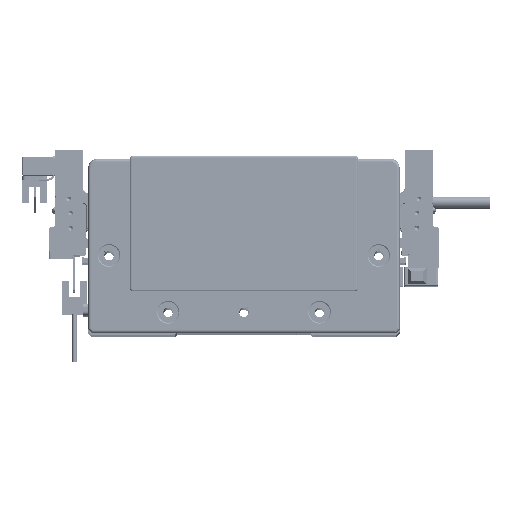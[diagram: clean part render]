
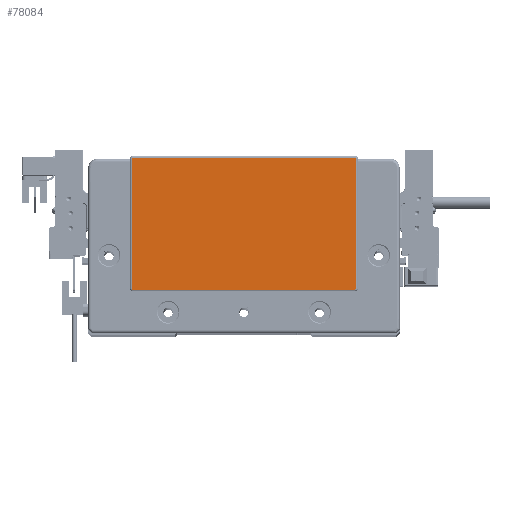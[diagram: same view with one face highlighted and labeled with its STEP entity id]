
A CAD part, top view. The second image highlights one B-rep face of the part: STEP entity #78084.
In plain terms, the highlighted planar face has unit normal (0, 0, 1) as drawn and (0, 0, -1) by its records, which use the part's own axes.
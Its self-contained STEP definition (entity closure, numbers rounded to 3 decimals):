
#1613 = CARTESIAN_POINT ( 'NONE',  ( 58.75, 45.3, -2. ) ) ;
#2298 = LINE ( 'NONE', #22966, #5763 ) ;
#3175 = DIRECTION ( 'NONE',  ( -1., 0., 0. ) ) ;
#3394 = CIRCLE ( 'NONE', #80886, 0.5 ) ;
#5763 = VECTOR ( 'NONE', #74366, 1000. ) ;
#7729 = CARTESIAN_POINT ( 'NONE',  ( -58.75, -23.8, -2. ) ) ;
#12370 = EDGE_CURVE ( 'NONE', #72384, #70625, #81031, .T. ) ;
#14386 = DIRECTION ( 'NONE',  ( -1., 0., 0. ) ) ;
#14450 = VERTEX_POINT ( 'NONE', #79374 ) ;
#15658 = EDGE_CURVE ( 'NONE', #14450, #72384, #64593, .T. ) ;
#16767 = DIRECTION ( 'NONE',  ( 0., 0., -1. ) ) ;
#20718 = EDGE_CURVE ( 'NONE', #70625, #79752, #28862, .T. ) ;
#22966 = CARTESIAN_POINT ( 'NONE',  ( -59.25, 45.3, -2. ) ) ;
#23086 = EDGE_LOOP ( 'NONE', ( #33965, #75653, #28475, #74680, #68745, #51826, #42947, #87968 ) ) ;
#23227 = DIRECTION ( 'NONE',  ( 0., -1., 0. ) ) ;
#23274 = CARTESIAN_POINT ( 'NONE',  ( 58.75, 45.8, -2. ) ) ;
#24673 = CARTESIAN_POINT ( 'NONE',  ( -59.25, 45.3, -2. ) ) ;
#25011 = AXIS2_PLACEMENT_3D ( 'NONE', #71629, #16767, #58122 ) ;
#25664 = VECTOR ( 'NONE', #23227, 1000. ) ;
#27503 = AXIS2_PLACEMENT_3D ( 'NONE', #49438, #75990, #14386 ) ;
#28207 = CARTESIAN_POINT ( 'NONE',  ( -58.75, 45.8, -2. ) ) ;
#28355 = CIRCLE ( 'NONE', #61391, 0.5 ) ;
#28475 = ORIENTED_EDGE ( 'NONE', *, *, #20718, .T. ) ;
#28862 = LINE ( 'NONE', #7729, #62502 ) ;
#30021 = VECTOR ( 'NONE', #48456, 1000. ) ;
#31584 = DIRECTION ( 'NONE',  ( 0., 0., -1. ) ) ;
#33965 = ORIENTED_EDGE ( 'NONE', *, *, #15658, .T. ) ;
#37356 = FACE_OUTER_BOUND ( 'NONE', #23086, .T. ) ;
#42796 = CARTESIAN_POINT ( 'NONE',  ( -58.75, -23.8, -2. ) ) ;
#42947 = ORIENTED_EDGE ( 'NONE', *, *, #80447, .T. ) ;
#43439 = CARTESIAN_POINT ( 'NONE',  ( -59.25, -23.3, -2. ) ) ;
#43625 = CARTESIAN_POINT ( 'NONE',  ( 0., 0., -2. ) ) ;
#48456 = DIRECTION ( 'NONE',  ( 1., 0., 0. ) ) ;
#49044 = EDGE_CURVE ( 'NONE', #84163, #55658, #2298, .T. ) ;
#49438 = CARTESIAN_POINT ( 'NONE',  ( -58.75, 45.3, -2. ) ) ;
#51817 = VERTEX_POINT ( 'NONE', #23274 ) ;
#51826 = ORIENTED_EDGE ( 'NONE', *, *, #72962, .T. ) ;
#53857 = LINE ( 'NONE', #83068, #30021 ) ;
#54775 = CIRCLE ( 'NONE', #27503, 0.5 ) ;
#55373 = DIRECTION ( 'NONE',  ( -1., 0., 0. ) ) ;
#55658 = VERTEX_POINT ( 'NONE', #24673 ) ;
#58122 = DIRECTION ( 'NONE',  ( -1., 0., 0. ) ) ;
#58150 = CARTESIAN_POINT ( 'NONE',  ( 59.25, -23.3, -2. ) ) ;
#59166 = CARTESIAN_POINT ( 'NONE',  ( 59.25, -23.3, -2. ) ) ;
#61391 = AXIS2_PLACEMENT_3D ( 'NONE', #1613, #31584, #77570 ) ;
#62502 = VECTOR ( 'NONE', #55373, 1000. ) ;
#64593 = LINE ( 'NONE', #59166, #25664 ) ;
#64752 = DIRECTION ( 'NONE',  ( 0., 0., -1. ) ) ;
#68066 = EDGE_CURVE ( 'NONE', #51817, #14450, #28355, .T. ) ;
#68745 = ORIENTED_EDGE ( 'NONE', *, *, #49044, .T. ) ;
#70625 = VERTEX_POINT ( 'NONE', #74501 ) ;
#71231 = DIRECTION ( 'NONE',  ( 0., 0., -1. ) ) ;
#71629 = CARTESIAN_POINT ( 'NONE',  ( 58.75, -23.3, -2. ) ) ;
#71898 = VERTEX_POINT ( 'NONE', #28207 ) ;
#72384 = VERTEX_POINT ( 'NONE', #58150 ) ;
#72962 = EDGE_CURVE ( 'NONE', #55658, #71898, #54775, .T. ) ;
#73603 = EDGE_CURVE ( 'NONE', #79752, #84163, #3394, .T. ) ;
#74366 = DIRECTION ( 'NONE',  ( 0., 1., 0. ) ) ;
#74501 = CARTESIAN_POINT ( 'NONE',  ( 58.75, -23.8, -2. ) ) ;
#74680 = ORIENTED_EDGE ( 'NONE', *, *, #73603, .T. ) ;
#75653 = ORIENTED_EDGE ( 'NONE', *, *, #12370, .T. ) ;
#75990 = DIRECTION ( 'NONE',  ( 0., 0., -1. ) ) ;
#77570 = DIRECTION ( 'NONE',  ( -1., 0., 0. ) ) ;
#77808 = PLANE ( 'NONE',  #88744 ) ;
#78084 = ADVANCED_FACE ( 'NONE', ( #37356 ), #77808, .T. ) ;
#78856 = CARTESIAN_POINT ( 'NONE',  ( -58.75, -23.3, -2. ) ) ;
#79374 = CARTESIAN_POINT ( 'NONE',  ( 59.25, 45.3, -2. ) ) ;
#79752 = VERTEX_POINT ( 'NONE', #42796 ) ;
#80447 = EDGE_CURVE ( 'NONE', #71898, #51817, #53857, .T. ) ;
#80886 = AXIS2_PLACEMENT_3D ( 'NONE', #78856, #71231, #85156 ) ;
#81031 = CIRCLE ( 'NONE', #25011, 0.5 ) ;
#83068 = CARTESIAN_POINT ( 'NONE',  ( 58.75, 45.8, -2. ) ) ;
#84163 = VERTEX_POINT ( 'NONE', #43439 ) ;
#85156 = DIRECTION ( 'NONE',  ( -1., 0., 0. ) ) ;
#87968 = ORIENTED_EDGE ( 'NONE', *, *, #68066, .T. ) ;
#88744 = AXIS2_PLACEMENT_3D ( 'NONE', #43625, #64752, #3175 ) ;
